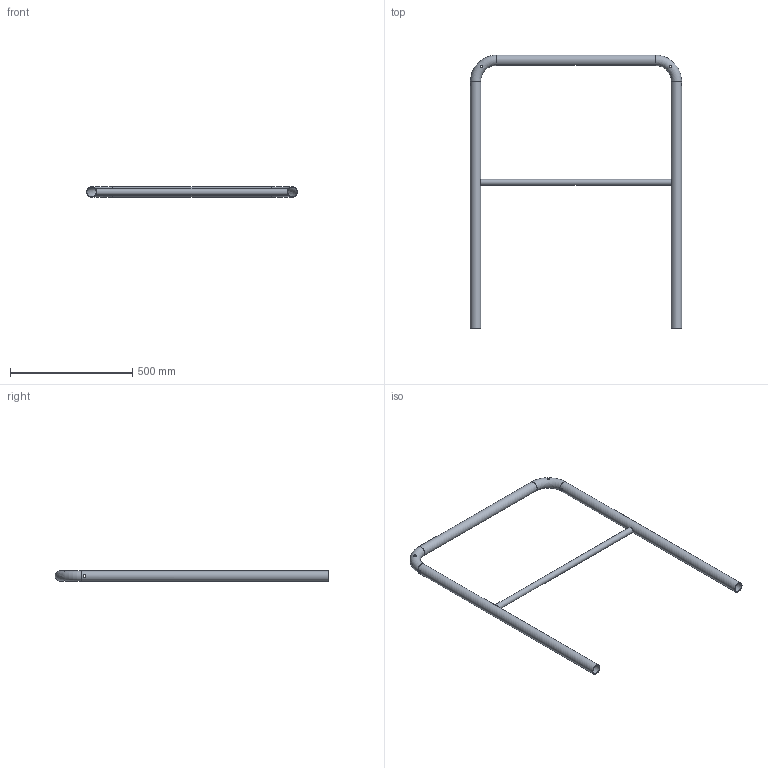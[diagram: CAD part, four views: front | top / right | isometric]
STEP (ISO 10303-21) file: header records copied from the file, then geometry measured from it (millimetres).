
FILE_DESCRIPTION((''),'2;1');
FILE_NAME('S:\Användarkataloger\AndreasA\Mina Inventor filer\Räcken\STEP\modul_ind_900-1100.stp','2010-09-07T13:14:22',('AndreasA'),(''),'Autodesk Inventor 2011','Autodesk Inventor 2011','');
FILE_SCHEMA(('AUTOMOTIVE_DESIGN { 1 0 10303 214 1 1 1 1 }'));
Length unit declared in the file: millimetre
Products named in the file (3): modul_ind_900-1100; handledare_modul_900-1100; mellanliggare_modul_900
Assembly tree (2 placements, depth 2):
  modul_ind_900-1100
    handledare_modul_900-1100
    mellanliggare_modul_900
Bounding box: 865.4 x 1121.2 x 42.4 mm (x, y, z)
Volume: 859918.5 mm3; surface area: 861252.3 mm2
Topology: 2 solids, 2 shells, 24 faces, 64 edges, 40 vertices
Faces by surface type: cylinder 16, torus 4, plane 4
Full cylindrical faces by diameter (mm): 10 x4, 11 x4, 21 x1, 25 x1, 38.4 x3, 42.4 x3
Entity records: 1354 total; most frequent: CARTESIAN_POINT 809, DIRECTION 90, ORIENTED_EDGE 64, EDGE_LOOP 64, AXIS2_PLACEMENT_3D 45, FACE_BOUND 40, VERTEX_POINT 32, EDGE_CURVE 32
